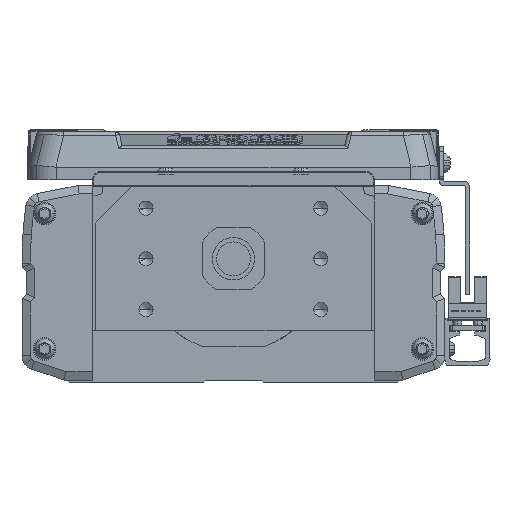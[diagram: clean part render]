
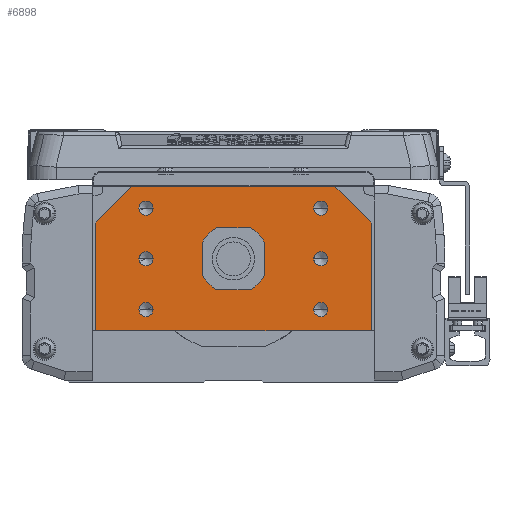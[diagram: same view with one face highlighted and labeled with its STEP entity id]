
A CAD part, left-side view. The second image highlights one B-rep face of the part: STEP entity #6898.
In plain terms, the highlighted planar face has unit normal (-1, 0, 0).
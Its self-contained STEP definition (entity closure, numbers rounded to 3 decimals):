
#6898=ADVANCED_FACE('',(#14236,#14237,#14238,#14239,#14240,#14241,#14242,#14243),#14244,.F.);
#14236=FACE_OUTER_BOUND('',#23328,.T.);
#14237=FACE_BOUND('',#23329,.T.);
#14238=FACE_BOUND('',#23330,.T.);
#14239=FACE_BOUND('',#23331,.T.);
#14240=FACE_BOUND('',#23332,.T.);
#14241=FACE_BOUND('',#23333,.T.);
#14242=FACE_BOUND('',#23334,.T.);
#14243=FACE_BOUND('',#23335,.T.);
#14244=PLANE('',#23336);
#23328=EDGE_LOOP('',(#42767,#42768,#42769,#42770,#42771,#42772,#42773,#42774));
#23329=EDGE_LOOP('',(#42775,#42776));
#23330=EDGE_LOOP('',(#42777,#42778));
#23331=EDGE_LOOP('',(#42779,#42780));
#23332=EDGE_LOOP('',(#42781,#42782));
#23333=EDGE_LOOP('',(#42783,#42784));
#23334=EDGE_LOOP('',(#42785,#42786));
#23335=EDGE_LOOP('',(#42787,#42788));
#23336=AXIS2_PLACEMENT_3D('',#42789,#42790,#42791);
#42767=ORIENTED_EDGE('',*,*,#47897,.F.);
#42768=ORIENTED_EDGE('',*,*,#50827,.F.);
#42769=ORIENTED_EDGE('',*,*,#50486,.F.);
#42770=ORIENTED_EDGE('',*,*,#48539,.F.);
#42771=ORIENTED_EDGE('',*,*,#54225,.F.);
#42772=ORIENTED_EDGE('',*,*,#50690,.F.);
#42773=ORIENTED_EDGE('',*,*,#54023,.F.);
#42774=ORIENTED_EDGE('',*,*,#53775,.F.);
#42775=ORIENTED_EDGE('',*,*,#54448,.T.);
#42776=ORIENTED_EDGE('',*,*,#47872,.T.);
#42777=ORIENTED_EDGE('',*,*,#54988,.T.);
#42778=ORIENTED_EDGE('',*,*,#50702,.T.);
#42779=ORIENTED_EDGE('',*,*,#47533,.T.);
#42780=ORIENTED_EDGE('',*,*,#47837,.T.);
#42781=ORIENTED_EDGE('',*,*,#51703,.T.);
#42782=ORIENTED_EDGE('',*,*,#52381,.T.);
#42783=ORIENTED_EDGE('',*,*,#52339,.T.);
#42784=ORIENTED_EDGE('',*,*,#51248,.T.);
#42785=ORIENTED_EDGE('',*,*,#50024,.T.);
#42786=ORIENTED_EDGE('',*,*,#51811,.T.);
#42787=ORIENTED_EDGE('',*,*,#54989,.F.);
#42788=ORIENTED_EDGE('',*,*,#48410,.F.);
#42789=CARTESIAN_POINT('',(0.,0.275,-2.548));
#42790=DIRECTION('',(1.0,0.,0.));
#42791=DIRECTION('',(0.,1.0,0.));
#47533=EDGE_CURVE('',#56591,#56595,#56597,.T.);
#47837=EDGE_CURVE('',#56595,#56591,#57151,.T.);
#47872=EDGE_CURVE('',#57211,#57209,#57212,.T.);
#47897=EDGE_CURVE('',#57254,#57255,#57256,.T.);
#48410=EDGE_CURVE('',#58162,#58165,#58166,.F.);
#48539=EDGE_CURVE('',#58374,#58376,#58377,.T.);
#50024=EDGE_CURVE('',#60887,#60891,#60893,.T.);
#50486=EDGE_CURVE('',#58376,#61630,#61631,.T.);
#50690=EDGE_CURVE('',#61948,#61951,#61952,.T.);
#50702=EDGE_CURVE('',#61969,#61967,#61970,.T.);
#50827=EDGE_CURVE('',#61630,#57254,#62156,.T.);
#51248=EDGE_CURVE('',#62788,#62786,#62789,.T.);
#51703=EDGE_CURVE('',#63449,#63453,#63455,.T.);
#51811=EDGE_CURVE('',#60891,#60887,#63620,.T.);
#52339=EDGE_CURVE('',#62786,#62788,#64370,.T.);
#52381=EDGE_CURVE('',#63453,#63449,#64425,.T.);
#53775=EDGE_CURVE('',#57255,#66240,#66241,.T.);
#54023=EDGE_CURVE('',#66240,#61948,#66547,.T.);
#54225=EDGE_CURVE('',#61951,#58374,#66781,.T.);
#54448=EDGE_CURVE('',#57209,#57211,#67040,.T.);
#54988=EDGE_CURVE('',#61967,#61969,#67654,.T.);
#54989=EDGE_CURVE('',#58165,#58162,#67655,.F.);
#56591=VERTEX_POINT('',#69597);
#56595=VERTEX_POINT('',#69602);
#56597=CIRCLE('',#69605,2.5);
#57151=CIRCLE('',#70337,2.5);
#57209=VERTEX_POINT('',#70443);
#57211=VERTEX_POINT('',#70446);
#57212=CIRCLE('',#70447,2.5);
#57254=VERTEX_POINT('',#70500);
#57255=VERTEX_POINT('',#70501);
#57256=LINE('',#70502,#70503);
#58162=VERTEX_POINT('',#71753);
#58165=VERTEX_POINT('',#71757);
#58166=CIRCLE('',#71758,7.5);
#58374=VERTEX_POINT('',#72064);
#58376=VERTEX_POINT('',#72067);
#58377=LINE('',#72068,#72069);
#60887=VERTEX_POINT('',#75511);
#60891=VERTEX_POINT('',#75516);
#60893=CIRCLE('',#75519,2.5);
#61630=VERTEX_POINT('',#76505);
#61631=LINE('',#76506,#76507);
#61948=VERTEX_POINT('',#76955);
#61951=VERTEX_POINT('',#76959);
#61952=LINE('',#76960,#76961);
#61967=VERTEX_POINT('',#76982);
#61969=VERTEX_POINT('',#76985);
#61970=CIRCLE('',#76986,2.5);
#62156=LINE('',#77223,#77224);
#62786=VERTEX_POINT('',#78101);
#62788=VERTEX_POINT('',#78104);
#62789=CIRCLE('',#78105,2.5);
#63449=VERTEX_POINT('',#79053);
#63453=VERTEX_POINT('',#79058);
#63455=CIRCLE('',#79061,2.5);
#63620=CIRCLE('',#79279,2.5);
#64370=CIRCLE('',#80385,2.5);
#64425=CIRCLE('',#80447,2.5);
#66240=VERTEX_POINT('',#83195);
#66241=LINE('',#83196,#83197);
#66547=LINE('',#83723,#83724);
#66781=LINE('',#84043,#84044);
#67040=CIRCLE('',#84395,2.5);
#67654=CIRCLE('',#85206,2.5);
#67655=CIRCLE('',#85207,7.5);
#69597=CARTESIAN_POINT('',(0.,33.5,18.));
#69602=CARTESIAN_POINT('',(0.,28.5,18.));
#69605=AXIS2_PLACEMENT_3D('',#86918,#86919,#86920);
#70337=AXIS2_PLACEMENT_3D('',#87351,#87352,#87353);
#70443=CARTESIAN_POINT('',(0.,33.5,-18.));
#70446=CARTESIAN_POINT('',(0.,28.5,-18.));
#70447=AXIS2_PLACEMENT_3D('',#87388,#87389,#87390);
#70500=CARTESIAN_POINT('',(0.,49.,12.7));
#70501=CARTESIAN_POINT('',(0.,36.,25.7));
#70502=CARTESIAN_POINT('',(0.,37.381,24.319));
#70503=VECTOR('',#87426,10.);
#71753=CARTESIAN_POINT('',(0.,-7.5,0.));
#71757=CARTESIAN_POINT('',(0.,7.5,0.));
#71758=AXIS2_PLACEMENT_3D('',#88123,#88124,#88125);
#72064=CARTESIAN_POINT('',(0.,-48.5,-25.5));
#72067=CARTESIAN_POINT('',(0.,48.5,-25.5));
#72068=CARTESIAN_POINT('',(0.,0.,-25.5));
#72069=VECTOR('',#88263,10.0);
#75511=CARTESIAN_POINT('',(0.,-33.5,0.));
#75516=CARTESIAN_POINT('',(0.,-28.5,0.));
#75519=AXIS2_PLACEMENT_3D('',#90449,#90450,#90451);
#76505=CARTESIAN_POINT('',(0.,49.,-25.));
#76506=CARTESIAN_POINT('',(0.,48.5,-25.5));
#76507=VECTOR('',#91084,10.0);
#76955=CARTESIAN_POINT('',(0.,-49.,12.7));
#76959=CARTESIAN_POINT('',(0.,-49.,-25.));
#76960=CARTESIAN_POINT('',(0.,-49.,-14.));
#76961=VECTOR('',#91353,10.0);
#76982=CARTESIAN_POINT('',(0.,-33.5,-18.));
#76985=CARTESIAN_POINT('',(0.,-28.5,-18.));
#76986=AXIS2_PLACEMENT_3D('',#91364,#91365,#91366);
#77223=CARTESIAN_POINT('',(0.,49.,-25.));
#77224=VECTOR('',#91553,10.0);
#78101=CARTESIAN_POINT('',(0.,33.5,0.));
#78104=CARTESIAN_POINT('',(0.,28.5,0.));
#78105=AXIS2_PLACEMENT_3D('',#92071,#92072,#92073);
#79053=CARTESIAN_POINT('',(0.,-33.5,18.));
#79058=CARTESIAN_POINT('',(0.,-28.5,18.));
#79061=AXIS2_PLACEMENT_3D('',#92664,#92665,#92666);
#79279=AXIS2_PLACEMENT_3D('',#92804,#92805,#92806);
#80385=AXIS2_PLACEMENT_3D('',#93485,#93486,#93487);
#80447=AXIS2_PLACEMENT_3D('',#93561,#93562,#93563);
#83195=CARTESIAN_POINT('',(0.,-36.,25.7));
#83196=CARTESIAN_POINT('',(0.,34.5,25.7));
#83197=VECTOR('',#95153,10.0);
#83723=CARTESIAN_POINT('',(0.,-37.243,24.457));
#83724=VECTOR('',#95383,10.0);
#84043=CARTESIAN_POINT('',(0.,-49.,-25.));
#84044=VECTOR('',#95583,10.0);
#84395=AXIS2_PLACEMENT_3D('',#95794,#95795,#95796);
#85206=AXIS2_PLACEMENT_3D('',#96237,#96238,#96239);
#85207=AXIS2_PLACEMENT_3D('',#96240,#96241,#96242);
#86918=CARTESIAN_POINT('',(0.,31.,18.));
#86919=DIRECTION('',(1.0,0.,0.));
#86920=DIRECTION('',(0.,1.0,0.));
#87351=CARTESIAN_POINT('',(0.,31.,18.));
#87352=DIRECTION('',(1.0,0.,0.));
#87353=DIRECTION('',(0.,1.0,0.));
#87388=CARTESIAN_POINT('',(0.,31.,-18.));
#87389=DIRECTION('',(1.0,0.,0.));
#87390=DIRECTION('',(0.,1.0,0.));
#87426=DIRECTION('',(0.,-0.707,0.707));
#88123=CARTESIAN_POINT('',(0.,0.,0.));
#88124=DIRECTION('',(1.0,0.,0.));
#88125=DIRECTION('',(0.,-1.0,0.));
#88263=DIRECTION('',(0.,1.0,0.));
#90449=CARTESIAN_POINT('',(0.,-31.,0.));
#90450=DIRECTION('',(1.0,0.,0.));
#90451=DIRECTION('',(0.,-1.0,0.));
#91084=DIRECTION('',(0.,0.707,0.707));
#91353=DIRECTION('',(0.,0.,-1.0));
#91364=CARTESIAN_POINT('',(0.,-31.,-18.));
#91365=DIRECTION('',(1.0,0.,0.));
#91366=DIRECTION('',(0.,-1.0,0.));
#91553=DIRECTION('',(0.,0.,1.0));
#92071=CARTESIAN_POINT('',(0.,31.,0.));
#92072=DIRECTION('',(1.0,0.,0.));
#92073=DIRECTION('',(0.,1.0,0.));
#92664=CARTESIAN_POINT('',(0.,-31.,18.));
#92665=DIRECTION('',(1.0,0.,0.));
#92666=DIRECTION('',(0.,-1.0,0.));
#92804=CARTESIAN_POINT('',(0.,-31.,0.));
#92805=DIRECTION('',(1.0,0.,0.));
#92806=DIRECTION('',(0.,-1.0,0.));
#93485=CARTESIAN_POINT('',(0.,31.,0.));
#93486=DIRECTION('',(1.0,0.,0.));
#93487=DIRECTION('',(0.,1.0,0.));
#93561=CARTESIAN_POINT('',(0.,-31.,18.));
#93562=DIRECTION('',(1.0,0.,0.));
#93563=DIRECTION('',(0.,-1.0,0.));
#95153=DIRECTION('',(0.,-1.0,0.));
#95383=DIRECTION('',(0.,-0.707,-0.707));
#95583=DIRECTION('',(0.,0.707,-0.707));
#95794=CARTESIAN_POINT('',(0.,31.,-18.));
#95795=DIRECTION('',(1.0,0.,0.));
#95796=DIRECTION('',(0.,1.0,0.));
#96237=CARTESIAN_POINT('',(0.,-31.,-18.));
#96238=DIRECTION('',(1.0,0.,0.));
#96239=DIRECTION('',(0.,-1.0,0.));
#96240=CARTESIAN_POINT('',(0.,0.,0.));
#96241=DIRECTION('',(1.0,0.,0.));
#96242=DIRECTION('',(0.,-1.0,0.));
